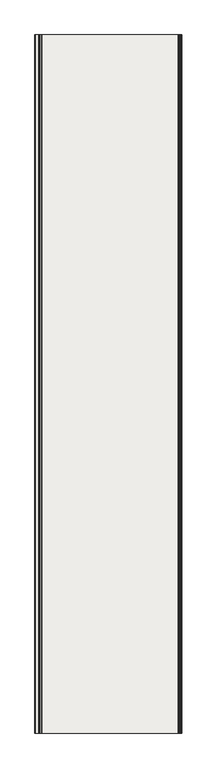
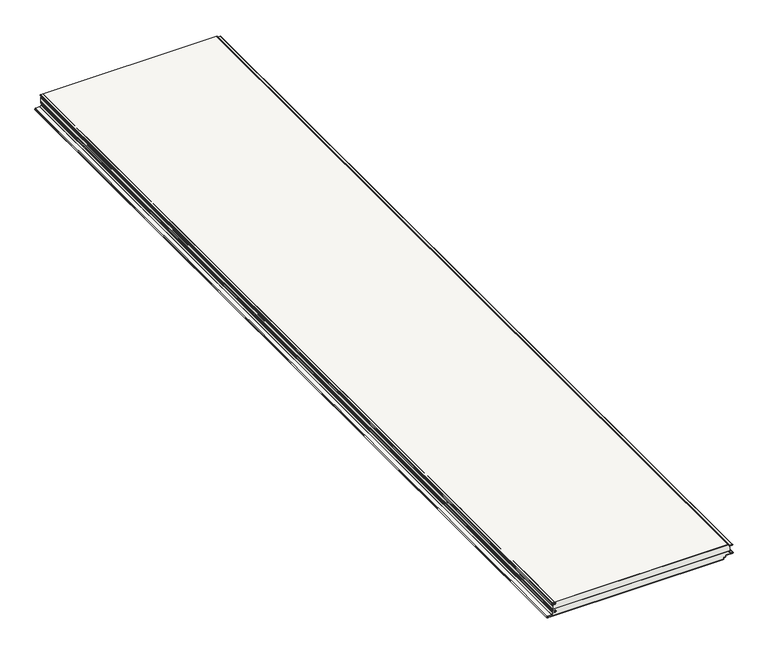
"""IFC4 building model written with IfcOpenShell, lengths in millimetres: covering geometry, Wall sandwich panel SPW-H CORE WOOL (single sheet) : -."""

from ifc_helpers import new_model, si_unit, point, frame, frame_2d, origin, place, context, project, spatial, polyline, circle_curve, trimmed, segment, composite_curve, outline, extrude, source, transform, mapped, element, save
from ifc_brep_helpers import plane_surface, cylinder_surface, revolved_surface, advanced_brep


def covering_002f4c35(model_context):
    return source(origin(), model_context, "Body", "SolidModel", [
        extrude(outline(composite_curve([segment(polyline([(-79.0, -1035.0), (-80.0, -1035.0), (-80.0, -73.4477183)]), True, "CONTINUOUS"), segment(trimmed(circle_curve(frame_2d((-75.0, -73.4477183)), 5.0), [point((-80.0, -73.4477183))], [point((-75.0, -68.4477183))], False, "CARTESIAN"), True, "CONTINUOUS"), segment(polyline([(-75.0, -68.4477183), (-72.008232, -68.4477183)]), True, "CONTINUOUS"), segment(trimmed(circle_curve(frame_2d((-72.008232, -66.4315256)), 2.0161927), [point((-72.008232, -68.4477183))], [point((-69.9920393, -66.4315256))], True, "CARTESIAN"), True, "CONTINUOUS"), segment(polyline([(-69.9920393, -66.4315256), (-69.9920393, -60.9141788)]), True, "CONTINUOUS"), segment(trimmed(circle_curve(frame_2d((-67.4959919, -60.9141788)), 2.4960474), [point((-69.9920393, -60.9141788))], [point((-67.9326372, -58.4566204))], False, "CARTESIAN"), True, "CONTINUOUS"), segment(polyline([(-67.9326372, -58.4566204), (-61.6533464, -57.3460478)]), True, "CONTINUOUS"), segment(trimmed(circle_curve(frame_2d((-62.0004127, -55.3763918)), 2.0), [point((-61.6533464, -57.3460478))], [point((-60.0004127, -55.3763918))], True, "CARTESIAN"), True, "CONTINUOUS"), segment(polyline([(-60.0004127, -55.3763918), (-60.0004127, -18.8763918)]), True, "CONTINUOUS"), segment(trimmed(circle_curve(frame_2d((-57.0004127, -18.8763918)), 3.0), [point((-60.0004127, -18.8763918))], [point((-54.0045241, -18.7193839))], False, "CARTESIAN"), True, "CONTINUOUS"), segment(polyline([(-54.0045241, -18.7193839), (-53.2754556, -32.6308399)]), True, "CONTINUOUS"), segment(trimmed(circle_curve(frame_2d((-50.7788817, -32.5)), 2.5), [point((-53.2754556, -32.6308399))], [point((-50.7788817, -35.0))], True, "CARTESIAN"), True, "CONTINUOUS"), segment(polyline([(-50.7788817, -35.0), (-41.4988817, -35.0), (-41.4988817, -36.0), (-50.7788817, -36.0)]), True, "CONTINUOUS"), segment(trimmed(circle_curve(frame_2d((-50.7788817, -32.5)), 3.5), [point((-50.7788817, -36.0))], [point((-54.2740851, -32.6831758))], False, "CARTESIAN"), True, "CONTINUOUS"), segment(polyline([(-54.2740851, -32.6831758), (-55.0031536, -18.7717199)]), True, "CONTINUOUS"), segment(trimmed(circle_curve(frame_2d((-57.0004127, -18.8763918)), 2.0), [point((-55.0031536, -18.7717199))], [point((-59.0004127, -18.8763918))], True, "CARTESIAN"), True, "CONTINUOUS"), segment(polyline([(-59.0004127, -18.8763918), (-59.0004127, -55.3763918)]), True, "CONTINUOUS"), segment(trimmed(circle_curve(frame_2d((-62.0004127, -55.3763918)), 3.0), [point((-59.0004127, -55.3763918))], [point((-61.4794682, -58.330815))], False, "CARTESIAN"), True, "CONTINUOUS"), segment(polyline([(-61.4794682, -58.330815), (-67.7580406, -59.4412605)]), True, "CONTINUOUS"), segment(trimmed(circle_curve(frame_2d((-67.4959919, -60.9141788)), 1.4960474), [point((-67.7580406, -59.4412605))], [point((-68.9920393, -60.9141788))], True, "CARTESIAN"), True, "CONTINUOUS"), segment(polyline([(-68.9920393, -60.9141788), (-68.9920393, -66.4315256)]), True, "CONTINUOUS"), segment(trimmed(circle_curve(frame_2d((-72.008232, -66.4315256)), 3.0161927), [point((-68.9920393, -66.4315256))], [point((-72.008232, -69.4477183))], False, "CARTESIAN"), True, "CONTINUOUS"), segment(polyline([(-72.008232, -69.4477183), (-75.0, -69.4477183)]), True, "CONTINUOUS"), segment(trimmed(circle_curve(frame_2d((-75.0, -73.4477183)), 4.0), [point((-75.0, -69.4477183))], [point((-79.0, -73.4477183))], True, "CARTESIAN"), True, "CONTINUOUS"), segment(polyline([(-79.0, -73.4477183), (-79.0, -1035.0)]), True, "CONTINUOUS")], self_intersect=False)), frame((0.0, -5000.0, 0.0), z_axis=(0.0, 1.0, 0.0), x_axis=(0.0, 0.0, 1.0)), (0.0, 0.0, 1.0), 5000.0),
        extrude(outline(composite_curve([segment(polyline([(-15.1088808, -1033.0523342), (-14.5423642, -1022.2421915)]), True, "CONTINUOUS"), segment(trimmed(circle_curve(frame_2d((-9.549216, -1022.5038626)), 5.0), [point((-14.5423642, -1022.2421915))], [point((-4.5522622, -1022.3293564))], False, "CARTESIAN"), True, "CONTINUOUS"), segment(polyline([(-4.5522622, -1022.3293564), (-4.0495702, -1036.7238513)]), True, "CONTINUOUS"), segment(trimmed(circle_curve(frame_2d((-2.5266447, -1036.6173526)), 1.5266447), [point((-4.0495702, -1036.7238513))], [point((-1.0, -1036.6173526))], True, "CARTESIAN"), True, "CONTINUOUS"), segment(polyline([(-1.0, -1036.6173526), (-1.0, -1035.0), (0.0, -1035.0), (0.0, -1036.6173526)]), True, "CONTINUOUS"), segment(trimmed(circle_curve(frame_2d((-2.5266447, -1036.6173526)), 2.5266447), [point((0.0, -1036.6173526))], [point((-5.0484281, -1036.7740115))], False, "CARTESIAN"), True, "CONTINUOUS"), segment(polyline([(-5.0484281, -1036.7740115), (-5.551653, -1022.3642576)]), True, "CONTINUOUS"), segment(trimmed(circle_curve(frame_2d((-9.549216, -1022.5038626)), 4.0), [point((-5.551653, -1022.3642576))], [point((-13.5437346, -1022.2945257))], True, "CARTESIAN"), True, "CONTINUOUS"), segment(polyline([(-13.5437346, -1022.2945257), (-14.1102512, -1033.1046684)]), True, "CONTINUOUS"), segment(trimmed(circle_curve(frame_2d((-16.1075105, -1033.0)), 2.0), [point((-14.1102512, -1033.1046684))], [point((-16.1075105, -1035.0))], False, "CARTESIAN"), True, "CONTINUOUS"), segment(polyline([(-16.1075105, -1035.0), (-18.1075105, -1035.0), (-18.1075105, -1034.0), (-16.1075105, -1034.0)]), True, "CONTINUOUS"), segment(trimmed(circle_curve(frame_2d((-16.1075105, -1033.0)), 1.0), [point((-16.1075105, -1034.0))], [point((-15.1088808, -1033.0523342))], True, "CARTESIAN"), True, "CONTINUOUS")], self_intersect=False)), frame((0.0, -5000.0, 0.0), z_axis=(0.0, 1.0, 0.0), x_axis=(0.0, 0.0, 1.0)), (0.0, 0.0, 1.0), 5000.0),
        advanced_brep(
        [(-1030.5824878, -5000.0, -62.0150874), (-1019.3324879, -5000.0, -61.9992045), (-1019.0709825, -5000.0, -52.0060522), (-1033.2742211, -5000.0, -51.2619406), (-1034.0, -5000.0, -50.4971426), (-1034.0, -5000.0, -41.4971426), (-1035.0, -5000.0, -41.4971426), (-1035.0, -5000.0, -50.4971426), (-1033.3265396, -5000.0, -52.260571), (-1019.123301, -5000.0, -53.0046827), (-1019.3331636, -5000.0, -60.9992044), (-1030.6396582, -5000.0, -61.0151671), (-1032.7899391, -5000.0, -62.27871), (-1038.1496634, -5000.0, -69.933474), (-1040.1975249, -5000.0, -70.9995686), (-1063.4143745, -5000.0, -70.9999738), (-1063.414296, -5000.0, -80.0), (-1035.0, -5000.0, -80.0), (-1035.0, -5000.0, -79.0), (-1063.414296, -5000.0, -79.0), (-1063.4143571, -5000.0, -72.0), (-1040.1975075, -5000.0, -71.9995686), (-1037.3305014, -5000.0, -70.5070361), (-1031.9707771, -5000.0, -62.8522722), (-1030.5824878, 0.0, -62.0150874), (-1031.9707771, 0.0, -62.8522722), (-1037.3305014, 0.0, -70.5070361), (-1040.1975075, 0.0, -71.9995686), (-1063.4143571, 0.0, -71.9999738), (-1063.414296, 0.0, -79.0), (-1035.0, 0.0, -79.0), (-1035.0, 0.0, -80.0), (-1063.414296, 0.0, -80.0), (-1063.4143745, 0.0, -71.0), (-1040.1975249, 0.0, -70.9995686), (-1038.1496634, 0.0, -69.933474), (-1032.7899391, 0.0, -62.27871), (-1030.6396582, 0.0, -61.0151671), (-1019.3331636, 0.0, -60.9992044), (-1019.123301, 0.0, -53.0046827), (-1033.3265396, 0.0, -52.260571), (-1035.0, 0.0, -50.4971426), (-1035.0, 0.0, -41.4971426), (-1034.0, 0.0, -41.4971426), (-1034.0, 0.0, -50.4971426), (-1033.2742211, 0.0, -51.2619406), (-1019.0709825, 0.0, -52.0060522), (-1019.3324879, 0.0, -61.9992045)],
        [
            (0, 1),
            (1, 2, circle_curve(frame((-1019.3325751, -5000.0, -56.9992045), z_axis=(0.0, -1.0, 0.0), x_axis=(1.0, 0.0, 0.0)), 5.0)),
            (2, 3),
            (3, 4, circle_curve(frame((-1033.2341531, -5000.0, -50.4971426), z_axis=(0.0, 1.0, 0.0), x_axis=(1.0, 0.0, 0.0)), 0.7658469)),
            (4, 5),
            (5, 6),
            (6, 7),
            (7, 8, circle_curve(frame((-1033.2341531, -5000.0, -50.4971426), z_axis=(0.0, -1.0, 0.0), x_axis=(1.0, 0.0, 0.0)), 1.7658469)),
            (8, 9),
            (9, 10, circle_curve(frame((-1019.3325751, -5000.0, -56.9992045), z_axis=(0.0, 1.0, 0.0), x_axis=(1.0, 0.0, 0.0)), 4.0)),
            (10, 11),
            (11, 12, circle_curve(frame((-1030.3324529, -5000.0, -63.9993964), z_axis=(0.0, -1.0, 0.0), x_axis=(1.0, 0.0, 0.0)), 3.0)),
            (12, 13),
            (13, 14, circle_curve(frame((-1040.1975686, -5000.0, -68.4995686), z_axis=(0.0, 1.0, 0.0), x_axis=(1.0, 0.0, 0.0)), 2.5)),
            (14, 15),
            (15, 16, circle_curve(frame((-1063.414296, -5000.0, -75.5), z_axis=(0.0, -1.0, 0.0), x_axis=(1.0, 0.0, 0.0)), 4.5)),
            (16, 17),
            (17, 18),
            (18, 19),
            (19, 20, circle_curve(frame((-1063.414296, -5000.0, -75.5), z_axis=(0.0, 1.0, 0.0), x_axis=(1.0, 0.0, 0.0)), 3.5)),
            (20, 21),
            (21, 22, circle_curve(frame((-1040.1975686, -5000.0, -68.4995686), z_axis=(0.0, -1.0, 0.0), x_axis=(1.0, 0.0, 0.0)), 3.5)),
            (22, 23),
            (23, 0, circle_curve(frame((-1030.3324529, -5000.0, -63.9993964), z_axis=(0.0, 1.0, 0.0), x_axis=(1.0, 0.0, 0.0)), 2.0)),
            (24, 25, circle_curve(frame((-1030.3324529, 0.0, -63.9993964), z_axis=(0.0, -1.0, 0.0), x_axis=(1.0, 0.0, 0.0)), 2.0)),
            (25, 26),
            (26, 27, circle_curve(frame((-1040.1975686, 0.0, -68.4995686), z_axis=(0.0, 1.0, 0.0), x_axis=(1.0, 0.0, 0.0)), 3.5)),
            (27, 28),
            (28, 29, circle_curve(frame((-1063.414296, 0.0, -75.5), z_axis=(0.0, -1.0, 0.0), x_axis=(1.0, 0.0, 0.0)), 3.5)),
            (29, 30),
            (30, 31),
            (31, 32),
            (32, 33, circle_curve(frame((-1063.414296, 0.0, -75.5), z_axis=(0.0, 1.0, 0.0), x_axis=(1.0, 0.0, 0.0)), 4.5)),
            (33, 34),
            (34, 35, circle_curve(frame((-1040.1975686, 0.0, -68.4995686), z_axis=(0.0, -1.0, 0.0), x_axis=(1.0, 0.0, 0.0)), 2.5)),
            (35, 36),
            (36, 37, circle_curve(frame((-1030.3324529, 0.0, -63.9993964), z_axis=(0.0, 1.0, 0.0), x_axis=(1.0, 0.0, 0.0)), 3.0)),
            (37, 38),
            (38, 39, circle_curve(frame((-1019.3325751, 0.0, -56.9992045), z_axis=(0.0, -1.0, 0.0), x_axis=(1.0, 0.0, 0.0)), 4.0)),
            (39, 40),
            (40, 41, circle_curve(frame((-1033.2341531, 0.0, -50.4971426), z_axis=(0.0, 1.0, 0.0), x_axis=(1.0, 0.0, 0.0)), 1.7658469)),
            (41, 42),
            (42, 43),
            (43, 44),
            (44, 45, circle_curve(frame((-1033.2341531, 0.0, -50.4971426), z_axis=(0.0, -1.0, 0.0), x_axis=(1.0, 0.0, 0.0)), 0.7658469)),
            (45, 46),
            (46, 47, circle_curve(frame((-1019.3325751, 0.0, -56.9992045), z_axis=(0.0, 1.0, 0.0), x_axis=(1.0, 0.0, 0.0)), 5.0)),
            (47, 24),
            (0, 24),
            (47, 1),
            (46, 2),
            (45, 3),
            (44, 4),
            (43, 5),
            (42, 6),
            (41, 7),
            (40, 8),
            (39, 9),
            (38, 10),
            (37, 11),
            (36, 12),
            (35, 13),
            (34, 14),
            (33, 15),
            (32, 16),
            (31, 17),
            (30, 18),
            (29, 19),
            (28, 20),
            (27, 21),
            (26, 22),
            (25, 23),
        ],
        [
            plane_surface(frame((-1035.0, -5000.0, -80.0), z_axis=(0.0, -1.0, 0.0), x_axis=(0.0, 0.0, -1.0))),
            plane_surface(frame((-1035.0, 0.0, -80.0), z_axis=(0.0, 1.0, 0.0), x_axis=(0.0, 0.0, -1.0))),
            plane_surface(frame((-1030.5824878, -5000.0, -62.0150874), z_axis=(0.001411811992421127, 0.0, -0.9999990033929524), x_axis=(0.0, 1.0, 0.0))),
            cylinder_surface(frame((-1019.3325751, -5000.0, -56.9992045), z_axis=(0.0, -1.0, 0.0), x_axis=(1.0, 0.0, 0.0)), 5.0),
            plane_surface(frame((-1019.0709825, -5000.0, -52.0060522), z_axis=(0.05231852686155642, 0.0, 0.998630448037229), x_axis=(0.0, 1.0, 0.0))),
            revolved_surface(polyline([(-1032.4683062, 0.0, -50.4971426), (-1032.4683062, -5000.0, -50.4971426)]), (-1033.2341531, -5000.0, -50.4971426), (0.0, 1.0, 0.0)),
            plane_surface(frame((-1034.0, -5000.0, -50.4971426), z_axis=(1.0, 0.0, 0.0), x_axis=(0.0, 1.0, 0.0))),
            plane_surface(frame((-1034.0, -5000.0, -41.4971426), z_axis=(0.0, 0.0, 1.0), x_axis=(0.0, 1.0, 0.0))),
            plane_surface(frame((-1035.0, -5000.0, -41.4971426), z_axis=(-1.0, 0.0, 0.0), x_axis=(0.0, 1.0, 0.0))),
            cylinder_surface(frame((-1033.2341531, -5000.0, -50.4971426), z_axis=(0.0, -1.0, 0.0), x_axis=(1.0, 0.0, 0.0)), 1.7658469),
            plane_surface(frame((-1033.3265396, -5000.0, -52.260571), z_axis=(-0.05231852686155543, 0.0, -0.998630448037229), x_axis=(0.0, 1.0, 0.0))),
            revolved_surface(polyline([(-1015.3325751, 0.0, -56.9992045), (-1015.3325751, -5000.0, -56.9992045)]), (-1019.3325751, -5000.0, -56.9992045), (0.0, 1.0, 0.0)),
            plane_surface(frame((-1019.3331636, -5000.0, -60.9992044), z_axis=(-0.0014118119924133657, 0.0, 0.9999990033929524), x_axis=(0.0, 1.0, 0.0))),
            cylinder_surface(frame((-1030.3324529, -5000.0, -63.9993964), z_axis=(0.0, -1.0, 0.0), x_axis=(1.0, 0.0, 0.0)), 3.0),
            plane_surface(frame((-1032.7899391, -5000.0, -62.27871), z_axis=(-0.8191620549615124, 0.0, 0.5735621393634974), x_axis=(0.0, 1.0, 0.0))),
            revolved_surface(polyline([(-1037.6975686, 0.0, -68.4995686), (-1037.6975686, -5000.0, -68.4995686)]), (-1040.1975686, -5000.0, -68.4995686), (0.0, 1.0, 0.0)),
            plane_surface(frame((-1040.1975249, -5000.0, -70.9995686), z_axis=(-1.745329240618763e-05, 0.0, 0.9999999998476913), x_axis=(0.0, 1.0, 0.0))),
            cylinder_surface(frame((-1063.414296, -5000.0, -75.5), z_axis=(0.0, -1.0, 0.0), x_axis=(1.0, 0.0, 0.0)), 4.5),
            plane_surface(frame((-1063.414296, -5000.0, -80.0), z_axis=(0.0, 0.0, -1.0), x_axis=(0.0, 1.0, 0.0))),
            plane_surface(frame((-1035.0, -5000.0, -80.0), z_axis=(1.0, 0.0, 0.0), x_axis=(0.0, 1.0, 0.0))),
            plane_surface(frame((-1035.0, -5000.0, -79.0), z_axis=(0.0, 0.0, 1.0), x_axis=(0.0, 1.0, 0.0))),
            revolved_surface(polyline([(-1059.914296, 0.0, -75.5), (-1059.914296, -5000.0, -75.5)]), (-1063.414296, -5000.0, -75.5), (0.0, 1.0, 0.0)),
            plane_surface(frame((-1063.4143571, -5000.0, -71.9999738), z_axis=(1.745329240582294e-05, 0.0, -0.9999999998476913), x_axis=(0.0, 1.0, 0.0))),
            cylinder_surface(frame((-1040.1975686, -5000.0, -68.4995686), z_axis=(0.0, -1.0, 0.0), x_axis=(1.0, 0.0, 0.0)), 3.5),
            plane_surface(frame((-1037.3305014, -5000.0, -70.5070361), z_axis=(0.8191620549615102, 0.0, -0.5735621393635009), x_axis=(0.0, 1.0, 0.0))),
            revolved_surface(polyline([(-1028.3324529, 0.0, -63.9993964), (-1028.3324529, -5000.0, -63.9993964)]), (-1030.3324529, -5000.0, -63.9993964), (0.0, 1.0, 0.0)),
        ],
        [
            (0, [[1, 2, 3, 4, 5, 6, 7, 8, 9, 10, 11, 12, 13, 14, 15, 16, 17, 18, 19, 20, 21, 22, 23, 24]]),
            (1, [[25, 26, 27, 28, 29, 30, 31, 32, 33, 34, 35, 36, 37, 38, 39, 40, 41, 42, 43, 44, 45, 46, 47, 48]]),
            (2, [[-1, 49, -48, 50]]),
            (3, [[-2, -50, -47, 51]]),
            (4, [[-3, -51, -46, 52]]),
            (5, [[-4, -52, -45, 53]]),
            (6, [[-5, -53, -44, 54]]),
            (7, [[-6, -54, -43, 55]]),
            (8, [[-7, -55, -42, 56]]),
            (9, [[-8, -56, -41, 57]]),
            (10, [[-9, -57, -40, 58]]),
            (11, [[-10, -58, -39, 59]]),
            (12, [[-11, -59, -38, 60]]),
            (13, [[-12, -60, -37, 61]]),
            (14, [[-13, -61, -36, 62]]),
            (15, [[-14, -62, -35, 63]]),
            (16, [[-15, -63, -34, 64]]),
            (17, [[-16, -64, -33, 65]]),
            (18, [[-17, -65, -32, 66]]),
            (19, [[-18, -66, -31, 67]]),
            (20, [[-19, -67, -30, 68]]),
            (21, [[-20, -68, -29, 69]]),
            (22, [[-21, -69, -28, 70]]),
            (23, [[-22, -70, -27, 71]]),
            (24, [[-23, -71, -26, 72]]),
            (25, [[-24, -72, -25, -49]]),
        ],
    ),
        extrude(outline(composite_curve([segment(polyline([(-1.0, -1035.0), (-1.0, -42.1186621)]), True, "CONTINUOUS"), segment(trimmed(circle_curve(frame_2d((-2.5, -42.1186621)), 1.5), [point((-1.0, -42.1186621))], [point((-2.5, -40.6186621))], True, "CARTESIAN"), True, "CONTINUOUS"), segment(polyline([(-2.5, -40.6186621), (-4.3, -40.6186621)]), True, "CONTINUOUS"), segment(trimmed(circle_curve(frame_2d((-4.3, -38.1186621)), 2.5), [point((-4.3, -40.6186621))], [point((-6.7984771, -38.2059108))], False, "CARTESIAN"), True, "CONTINUOUS"), segment(polyline([(-6.7984771, -38.2059108), (-7.363951, -22.012857)]), True, "CONTINUOUS"), segment(trimmed(circle_curve(frame_2d((-9.3627326, -22.082656)), 2.0), [point((-7.363951, -22.012857))], [point((-11.3599917, -21.9779841))], True, "CARTESIAN"), True, "CONTINUOUS"), segment(polyline([(-11.3599917, -21.9779841), (-11.921027, -32.6831758)]), True, "CONTINUOUS"), segment(trimmed(circle_curve(frame_2d((-15.4162304, -32.5)), 3.5), [point((-11.921027, -32.6831758))], [point((-15.4162304, -36.0))], False, "CARTESIAN"), True, "CONTINUOUS"), segment(polyline([(-15.4162304, -36.0), (-18.1062304, -36.0), (-18.1062304, -35.0), (-15.4162304, -35.0)]), True, "CONTINUOUS"), segment(trimmed(circle_curve(frame_2d((-15.4162304, -32.5)), 2.5), [point((-15.4162304, -35.0))], [point((-12.9196566, -32.6308399))], True, "CARTESIAN"), True, "CONTINUOUS"), segment(polyline([(-12.9196566, -32.6308399), (-12.3586212, -21.9256482)]), True, "CONTINUOUS"), segment(trimmed(circle_curve(frame_2d((-9.3627326, -22.082656)), 3.0), [point((-12.3586212, -21.9256482))], [point((-6.3645601, -21.9779575))], False, "CARTESIAN"), True, "CONTINUOUS"), segment(polyline([(-6.3645601, -21.9779575), (-5.7990862, -38.1710114)]), True, "CONTINUOUS"), segment(trimmed(circle_curve(frame_2d((-4.3, -38.1186621)), 1.5), [point((-5.7990862, -38.1710114))], [point((-4.3, -39.6186621))], True, "CARTESIAN"), True, "CONTINUOUS"), segment(polyline([(-4.3, -39.6186621), (-2.5, -39.6186621)]), True, "CONTINUOUS"), segment(trimmed(circle_curve(frame_2d((-2.5, -42.1186621)), 2.5), [point((-2.5, -39.6186621))], [point((0.0, -42.1186621))], False, "CARTESIAN"), True, "CONTINUOUS"), segment(polyline([(0.0, -42.1186621), (0.0, -1035.0), (-1.0, -1035.0)]), True, "CONTINUOUS")], self_intersect=False)), frame((0.0, -5000.0, 0.0), z_axis=(0.0, 1.0, 0.0), x_axis=(0.0, 0.0, 1.0)), (0.0, 0.0, 1.0), 5000.0),
        advanced_brep(
        [(-1063.414296, -5000.0, -79.0), (-1035.0, -5000.0, -79.0), (-73.4477183, -5000.0, -79.0), (-69.4477183, -5000.0, -75.0), (-69.4477183, -5000.0, -72.0078193), (-66.4315256, -5000.0, -68.9916266), (-60.9141788, -5000.0, -68.9916266), (-59.4412605, -5000.0, -67.7576279), (-58.330815, -5000.0, -61.4790555), (-55.3763918, -5000.0, -59.0), (-18.8763918, -5000.0, -59.0), (-18.7717199, -5000.0, -55.0027409), (-32.6831758, -5000.0, -54.2736724), (-36.0, -5000.0, -50.778469), (-36.0, -5000.0, -40.0), (-1034.0, -5000.0, -40.0), (-1034.0, -5000.0, -50.4973345), (-1033.2742211, -5000.0, -51.2621326), (-1019.0709825, -5000.0, -52.0062442), (-1019.3324879, -5000.0, -61.9993964), (-1030.3324878, -5000.0, -61.9993964), (-1031.9707771, -5000.0, -62.8522722), (-1037.3305014, -5000.0, -70.5070361), (-1040.1975075, -5000.0, -71.9995686), (-1063.4143571, -5000.0, -71.9995686), (-1035.0, 0.0, -79.0), (-1063.414296, 0.0, -79.0), (-1063.4143571, 0.0, -72.0), (-1040.1975075, 0.0, -71.9995686), (-1037.3305014, 0.0, -70.5070361), (-1031.9707771, 0.0, -62.8522722), (-1030.3324878, 0.0, -61.9993964), (-1019.3324879, 0.0, -61.9993964), (-1019.0709825, 0.0, -52.0062442), (-1033.2742211, 0.0, -51.2621326), (-1034.0, 0.0, -50.4973345), (-1034.0, 0.0, -40.0), (-36.0, 0.0, -40.0), (-36.0, 0.0, -50.778469), (-32.6831758, 0.0, -54.2736724), (-18.7717199, 0.0, -55.0027409), (-18.8763918, 0.0, -59.0), (-55.3763918, 0.0, -59.0), (-58.330815, 0.0, -61.4790555), (-59.4412605, 0.0, -67.7576279), (-60.9141788, 0.0, -68.9916266), (-66.4315256, 0.0, -68.9916266), (-69.4477183, 0.0, -72.0078193), (-69.4477183, 0.0, -75.0), (-73.4477183, 0.0, -79.0)],
        [
            (0, 1),
            (1, 2),
            (2, 3, circle_curve(frame((-73.4477183, -5000.0, -75.0), z_axis=(0.0, -1.0, 0.0), x_axis=(-1.0, 0.0, 0.0)), 4.0)),
            (3, 4),
            (4, 5, circle_curve(frame((-66.4315256, -5000.0, -72.0078193), z_axis=(0.0, 1.0, 0.0), x_axis=(-1.0, 0.0, 0.0)), 3.0161927)),
            (5, 6),
            (6, 7, circle_curve(frame((-60.9141788, -5000.0, -67.4955792), z_axis=(0.0, -1.0, 0.0), x_axis=(-1.0, 0.0, 0.0)), 1.4960474)),
            (7, 8),
            (8, 9, circle_curve(frame((-55.3763918, -5000.0, -62.0), z_axis=(0.0, 1.0, 0.0), x_axis=(-1.0, 0.0, 0.0)), 3.0)),
            (9, 10),
            (10, 11, circle_curve(frame((-18.8763918, -5000.0, -57.0), z_axis=(0.0, -1.0, 0.0), x_axis=(-1.0, 0.0, 0.0)), 2.0)),
            (11, 12),
            (12, 13, circle_curve(frame((-32.5, -5000.0, -50.778469), z_axis=(0.0, 1.0, 0.0), x_axis=(-1.0, 0.0, 0.0)), 3.5)),
            (13, 14),
            (14, 15),
            (15, 16),
            (16, 17, circle_curve(frame((-1033.2341531, -5000.0, -50.4973345), z_axis=(0.0, -1.0, 0.0), x_axis=(-1.0, 0.0, 0.0)), 0.7658469)),
            (17, 18),
            (18, 19, circle_curve(frame((-1019.3325751, -5000.0, -56.9993964), z_axis=(0.0, 1.0, 0.0), x_axis=(-1.0, 0.0, 0.0)), 5.0)),
            (19, 20),
            (20, 21, circle_curve(frame((-1030.3324529, -5000.0, -63.9993964), z_axis=(0.0, -1.0, 0.0), x_axis=(-1.0, 0.0, 0.0)), 2.0)),
            (21, 22),
            (22, 23, circle_curve(frame((-1040.1975686, -5000.0, -68.4995686), z_axis=(0.0, 1.0, 0.0), x_axis=(-1.0, 0.0, 0.0)), 3.5)),
            (23, 24),
            (24, 0, circle_curve(frame((-1063.414296, -5000.0, -75.5), z_axis=(0.0, -1.0, 0.0), x_axis=(-1.0, 0.0, 0.0)), 3.5)),
            (25, 26),
            (26, 27, circle_curve(frame((-1063.414296, 0.0, -75.5), z_axis=(0.0, 1.0, 0.0), x_axis=(-1.0, 0.0, 0.0)), 3.5)),
            (27, 28),
            (28, 29, circle_curve(frame((-1040.1975686, 0.0, -68.4995686), z_axis=(0.0, -1.0, 0.0), x_axis=(-1.0, 0.0, 0.0)), 3.5)),
            (29, 30),
            (30, 31, circle_curve(frame((-1030.3324529, 0.0, -63.9993964), z_axis=(0.0, 1.0, 0.0), x_axis=(-1.0, 0.0, 0.0)), 2.0)),
            (31, 32),
            (32, 33, circle_curve(frame((-1019.3325751, 0.0, -56.9993964), z_axis=(0.0, -1.0, 0.0), x_axis=(-1.0, 0.0, 0.0)), 5.0)),
            (33, 34),
            (34, 35, circle_curve(frame((-1033.2341531, 0.0, -50.4973345), z_axis=(0.0, 1.0, 0.0), x_axis=(-1.0, 0.0, 0.0)), 0.7658469)),
            (35, 36),
            (36, 37),
            (37, 38),
            (38, 39, circle_curve(frame((-32.5, 0.0, -50.778469), z_axis=(0.0, -1.0, 0.0), x_axis=(-1.0, 0.0, 0.0)), 3.5)),
            (39, 40),
            (40, 41, circle_curve(frame((-18.8763918, 0.0, -57.0), z_axis=(0.0, 1.0, 0.0), x_axis=(-1.0, 0.0, 0.0)), 2.0)),
            (41, 42),
            (42, 43, circle_curve(frame((-55.3763918, 0.0, -62.0), z_axis=(0.0, -1.0, 0.0), x_axis=(-1.0, 0.0, 0.0)), 3.0)),
            (43, 44),
            (44, 45, circle_curve(frame((-60.9141788, 0.0, -67.4955792), z_axis=(0.0, 1.0, 0.0), x_axis=(-1.0, 0.0, 0.0)), 1.4960474)),
            (45, 46),
            (46, 47, circle_curve(frame((-66.4315256, 0.0, -72.0078193), z_axis=(0.0, -1.0, 0.0), x_axis=(-1.0, 0.0, 0.0)), 3.0161927)),
            (47, 48),
            (48, 49, circle_curve(frame((-73.4477183, 0.0, -75.0), z_axis=(0.0, 1.0, 0.0), x_axis=(-1.0, 0.0, 0.0)), 4.0)),
            (49, 25),
            (36, 15),
            (14, 37),
            (0, 26),
            (49, 2),
            (13, 38),
            (12, 39),
            (11, 40),
            (10, 41),
            (9, 42),
            (8, 43),
            (7, 44),
            (6, 45),
            (5, 46),
            (4, 47),
            (3, 48),
            (24, 27),
            (23, 28),
            (22, 29),
            (21, 30),
            (20, 31),
            (19, 32),
            (18, 33),
            (17, 34),
            (16, 35),
        ],
        [
            plane_surface(frame((-1095.0, -5000.0, -40.0), z_axis=(0.0, -1.0, 0.0), x_axis=(-1.0, 0.0, 0.0))),
            plane_surface(frame((-1095.0, 0.0, -40.0), z_axis=(0.0, 1.0, 0.0), x_axis=(1.0, 0.0, 0.0))),
            plane_surface(frame((25.0, -5000.0, -40.0), z_axis=(0.0, 0.0, 1.0), x_axis=(0.0, 1.0, 0.0))),
            plane_surface(frame((-1095.0, -5000.0, -79.0), z_axis=(0.0, 0.0, -1.0), x_axis=(0.0, 1.0, 0.0))),
            plane_surface(frame((-36.0, -5000.0, -15.4162304), z_axis=(1.0, 0.0, 0.0), x_axis=(0.0, 1.0, 0.0))),
            revolved_surface(polyline([(-36.0, -5000.0, -50.778469), (-36.0, 0.0, -50.778469)]), (-32.5, -5000.0, -50.778469), (0.0, -1.0, 0.0)),
            plane_surface(frame((-32.6831758, -5000.0, -54.2736724), z_axis=(0.052335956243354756, 0.0, 0.9986295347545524), x_axis=(0.0, 1.0, 0.0))),
            cylinder_surface(frame((-18.8763918, -5000.0, -57.0), z_axis=(0.0, 1.0, 0.0), x_axis=(-1.0, 0.0, 0.0)), 2.0),
            plane_surface(frame((-18.8763918, -5000.0, -59.0), z_axis=(0.0, 0.0, -1.0), x_axis=(0.0, 1.0, 0.0))),
            revolved_surface(polyline([(-58.3763918, -5000.0, -62.0), (-58.3763918, 0.0, -62.0)]), (-55.3763918, -5000.0, -62.0), (0.0, -1.0, 0.0)),
            plane_surface(frame((-58.330815, -5000.0, -61.4790555), z_axis=(0.9847174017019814, 0.0, -0.1741598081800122), x_axis=(0.0, 1.0, 0.0))),
            cylinder_surface(frame((-60.9141788, -5000.0, -67.4955792), z_axis=(0.0, 1.0, 0.0), x_axis=(-1.0, 0.0, 0.0)), 1.4960474),
            plane_surface(frame((-60.9141788, -5000.0, -68.9916266), z_axis=(0.0, 0.0, -1.0), x_axis=(0.0, 1.0, 0.0))),
            revolved_surface(polyline([(-69.4477183, -5000.0, -72.0078193), (-69.4477183, 0.0, -72.0078193)]), (-66.4315256, -5000.0, -72.0078193), (0.0, -1.0, 0.0)),
            plane_surface(frame((-69.4477183, -5000.0, -72.0078193), z_axis=(1.0, 0.0, 0.0), x_axis=(0.0, 1.0, 0.0))),
            cylinder_surface(frame((-73.4477183, -5000.0, -75.0), z_axis=(0.0, 1.0, 0.0), x_axis=(-1.0, 0.0, 0.0)), 4.0),
            cylinder_surface(frame((-1063.414296, -5000.0, -75.5), z_axis=(0.0, 1.0, 0.0), x_axis=(-1.0, 0.0, 0.0)), 3.5),
            plane_surface(frame((-1063.4143571, -5000.0, -71.9995686), z_axis=(0.0, 0.0, 1.0), x_axis=(0.0, 1.0, 0.0))),
            revolved_surface(polyline([(-1043.6975686, -5000.0, -68.4995686), (-1043.6975686, 0.0, -68.4995686)]), (-1040.1975686, -5000.0, -68.4995686), (0.0, -1.0, 0.0)),
            plane_surface(frame((-1037.3305014, -5000.0, -70.5070361), z_axis=(-0.8191620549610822, 0.0, 0.573562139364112), x_axis=(0.0, 1.0, 0.0))),
            cylinder_surface(frame((-1030.3324529, -5000.0, -63.9993964), z_axis=(0.0, 1.0, 0.0), x_axis=(-1.0, 0.0, 0.0)), 2.0),
            plane_surface(frame((-1030.3324878, -5000.0, -61.9993964), z_axis=(0.0, 0.0, 1.0), x_axis=(0.0, 1.0, 0.0))),
            revolved_surface(polyline([(-1024.3325751, -5000.0, -56.9993964), (-1024.3325751, 0.0, -56.9993964)]), (-1019.3325751, -5000.0, -56.9993964), (0.0, -1.0, 0.0)),
            plane_surface(frame((-1019.0709825, -5000.0, -52.0062442), z_axis=(-0.05231852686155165, 0.0, -0.9986304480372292), x_axis=(0.0, 1.0, 0.0))),
            cylinder_surface(frame((-1033.2341531, -5000.0, -50.4973345), z_axis=(0.0, 1.0, 0.0), x_axis=(-1.0, 0.0, 0.0)), 0.7658469),
            plane_surface(frame((-1034.0, -5000.0, -50.4973345), z_axis=(-1.0, 0.0, 0.0), x_axis=(0.0, 1.0, 0.0))),
        ],
        [
            (0, [[1, 2, 3, 4, 5, 6, 7, 8, 9, 10, 11, 12, 13, 14, 15, 16, 17, 18, 19, 20, 21, 22, 23, 24, 25]]),
            (1, [[26, 27, 28, 29, 30, 31, 32, 33, 34, 35, 36, 37, 38, 39, 40, 41, 42, 43, 44, 45, 46, 47, 48, 49, 50]]),
            (2, [[51, -15, 52, -37]]),
            (3, [[-1, 53, -26, -50, 54, -2]]),
            (4, [[55, -38, -52, -14]]),
            (5, [[-55, -13, 56, -39]]),
            (6, [[-56, -12, 57, -40]]),
            (7, [[-57, -11, 58, -41]]),
            (8, [[-58, -10, 59, -42]]),
            (9, [[-59, -9, 60, -43]]),
            (10, [[-60, -8, 61, -44]]),
            (11, [[-61, -7, 62, -45]]),
            (12, [[-62, -6, 63, -46]]),
            (13, [[-63, -5, 64, -47]]),
            (14, [[-64, -4, 65, -48]]),
            (15, [[-65, -3, -54, -49]]),
            (16, [[66, -27, -53, -25]]),
            (17, [[-66, -24, 67, -28]]),
            (18, [[-67, -23, 68, -29]]),
            (19, [[-68, -22, 69, -30]]),
            (20, [[-69, -21, 70, -31]]),
            (21, [[-70, -20, 71, -32]]),
            (22, [[-71, -19, 72, -33]]),
            (23, [[-72, -18, 73, -34]]),
            (24, [[-73, -17, 74, -35]]),
            (25, [[-74, -16, -51, -36]]),
        ],
    ),
        advanced_brep(
        [(-1035.0, -5000.0, -1.0), (-1036.6173526, -5000.0, -1.0), (-1036.7238513, -5000.0, -4.0495702), (-1022.3293564, -5000.0, -4.5522622), (-1022.2421915, -5000.0, -14.5423642), (-1033.0523342, -5000.0, -15.1088808), (-1034.0, -5000.0, -16.1075105), (-1034.0, -5000.0, -40.0), (-36.0, -5000.0, -40.0), (-36.0, -5000.0, -15.4162304), (-32.6831758, -5000.0, -11.921027), (-21.9779841, -5000.0, -11.3599917), (-22.012857, -5000.0, -7.363951), (-38.2059108, -5000.0, -6.7984771), (-40.6186621, -5000.0, -4.3), (-40.6186621, -5000.0, -2.5), (-42.1186621, -5000.0, -1.0), (-43.1368714, -5000.0, -1.0), (-1036.6173526, 0.0, -1.0), (-1035.0, 0.0, -1.0), (-43.1368714, 0.0, -1.0), (-42.1186621, 0.0, -1.0), (-40.6186621, 0.0, -2.5), (-40.6186621, 0.0, -4.3), (-38.2059108, 0.0, -6.7984771), (-22.012857, 0.0, -7.363951), (-21.9779841, 0.0, -11.3599917), (-32.6831758, 0.0, -11.921027), (-36.0, 0.0, -15.4162304), (-36.0, 0.0, -40.0), (-1034.0, 0.0, -40.0), (-1034.0, 0.0, -16.1075105), (-1033.0523342, 0.0, -15.1088808), (-1022.2421915, 0.0, -14.5423642), (-1022.3293564, 0.0, -4.5522622), (-1036.7238513, 0.0, -4.0495702)],
        [
            (0, 1),
            (1, 2, circle_curve(frame((-1036.6173526, -5000.0, -2.5266447), z_axis=(0.0, -1.0, 0.0), x_axis=(-1.0, 0.0, 0.0)), 1.5266447)),
            (2, 3),
            (3, 4, circle_curve(frame((-1022.5038626, -5000.0, -9.549216), z_axis=(0.0, 1.0, 0.0), x_axis=(-1.0, 0.0, 0.0)), 5.0)),
            (4, 5),
            (5, 6, circle_curve(frame((-1033.0, -5000.0, -16.1075105), z_axis=(0.0, -1.0, 0.0), x_axis=(-1.0, 0.0, 0.0)), 1.0)),
            (6, 7),
            (7, 8),
            (8, 9),
            (9, 10, circle_curve(frame((-32.5, -5000.0, -15.4162304), z_axis=(0.0, 1.0, 0.0), x_axis=(-1.0, 0.0, 0.0)), 3.5)),
            (10, 11),
            (11, 12, circle_curve(frame((-22.082656, -5000.0, -9.3627326), z_axis=(0.0, -1.0, 0.0), x_axis=(-1.0, 0.0, 0.0)), 2.0)),
            (12, 13),
            (13, 14, circle_curve(frame((-38.1186621, -5000.0, -4.3), z_axis=(0.0, 1.0, 0.0), x_axis=(-1.0, 0.0, 0.0)), 2.5)),
            (14, 15),
            (15, 16, circle_curve(frame((-42.1186621, -5000.0, -2.5), z_axis=(0.0, -1.0, 0.0), x_axis=(-1.0, 0.0, 0.0)), 1.5)),
            (16, 17),
            (17, 0),
            (18, 19),
            (19, 20),
            (20, 21),
            (21, 22, circle_curve(frame((-42.1186621, 0.0, -2.5), z_axis=(0.0, 1.0, 0.0), x_axis=(-1.0, 0.0, 0.0)), 1.5)),
            (22, 23),
            (23, 24, circle_curve(frame((-38.1186621, 0.0, -4.3), z_axis=(0.0, -1.0, 0.0), x_axis=(-1.0, 0.0, 0.0)), 2.5)),
            (24, 25),
            (25, 26, circle_curve(frame((-22.082656, 0.0, -9.3627326), z_axis=(0.0, 1.0, 0.0), x_axis=(-1.0, 0.0, 0.0)), 2.0)),
            (26, 27),
            (27, 28, circle_curve(frame((-32.5, 0.0, -15.4162304), z_axis=(0.0, -1.0, 0.0), x_axis=(-1.0, 0.0, 0.0)), 3.5)),
            (28, 29),
            (29, 30),
            (30, 31),
            (31, 32, circle_curve(frame((-1033.0, 0.0, -16.1075105), z_axis=(0.0, 1.0, 0.0), x_axis=(-1.0, 0.0, 0.0)), 1.0)),
            (32, 33),
            (33, 34, circle_curve(frame((-1022.5038626, 0.0, -9.549216), z_axis=(0.0, -1.0, 0.0), x_axis=(-1.0, 0.0, 0.0)), 5.0)),
            (34, 35),
            (35, 18, circle_curve(frame((-1036.6173526, 0.0, -2.5266447), z_axis=(0.0, 1.0, 0.0), x_axis=(-1.0, 0.0, 0.0)), 1.5266447)),
            (16, 21),
            (18, 1),
            (7, 30),
            (29, 8),
            (15, 22),
            (14, 23),
            (13, 24),
            (12, 25),
            (11, 26),
            (10, 27),
            (9, 28),
            (6, 31),
            (5, 32),
            (4, 33),
            (3, 34),
            (2, 35),
        ],
        [
            plane_surface(frame((-1095.0, -5000.0, -1.0), z_axis=(0.0, -1.0, 0.0), x_axis=(-1.0, 0.0, 0.0))),
            plane_surface(frame((-1095.0, 0.0, -1.0), z_axis=(0.0, 1.0, 0.0), x_axis=(1.0, 0.0, 0.0))),
            plane_surface(frame((25.0, -5000.0, -1.0), z_axis=(0.0, 0.0, 1.0), x_axis=(0.0, 1.0, 0.0))),
            plane_surface(frame((-1095.0, -5000.0, -40.0), z_axis=(0.0, 0.0, -1.0), x_axis=(0.0, 1.0, 0.0))),
            cylinder_surface(frame((-42.1186621, -5000.0, -2.5), z_axis=(0.0, 1.0, 0.0), x_axis=(-1.0, 0.0, 0.0)), 1.5),
            plane_surface(frame((-40.6186621, -5000.0, -2.5), z_axis=(1.0, 0.0, 0.0), x_axis=(0.0, 1.0, 0.0))),
            revolved_surface(polyline([(-40.6186621, -5000.0, -4.3), (-40.6186621, 0.0, -4.3)]), (-38.1186621, -5000.0, -4.3), (0.0, -1.0, 0.0)),
            plane_surface(frame((-38.2059108, -5000.0, -6.7984771), z_axis=(0.03489949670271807, 0.0, 0.9993908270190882), x_axis=(0.0, 1.0, 0.0))),
            cylinder_surface(frame((-22.082656, -5000.0, -9.3627326), z_axis=(0.0, 1.0, 0.0), x_axis=(-1.0, 0.0, 0.0)), 2.0),
            plane_surface(frame((-21.9779841, -5000.0, -11.3599917), z_axis=(0.05233595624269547, 0.0, -0.998629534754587), x_axis=(0.0, 1.0, 0.0))),
            revolved_surface(polyline([(-36.0, -5000.0, -15.4162304), (-36.0, 0.0, -15.4162304)]), (-32.5, -5000.0, -15.4162304), (0.0, -1.0, 0.0)),
            plane_surface(frame((-36.0, -5000.0, -15.4162304), z_axis=(1.0, 0.0, 0.0), x_axis=(0.0, 1.0, 0.0))),
            plane_surface(frame((-1034.0, -5000.0, -50.4973345), z_axis=(-1.0, 0.0, 0.0), x_axis=(0.0, 1.0, 0.0))),
            cylinder_surface(frame((-1033.0, -5000.0, -16.1075105), z_axis=(0.0, 1.0, 0.0), x_axis=(-1.0, 0.0, 0.0)), 1.0),
            plane_surface(frame((-1033.0523342, -5000.0, -15.1088808), z_axis=(-0.05233421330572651, 0.0, 0.9986296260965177), x_axis=(0.0, 1.0, 0.0))),
            revolved_surface(polyline([(-1027.5038626, -5000.0, -9.549216), (-1027.5038626, 0.0, -9.549216)]), (-1022.5038626, -5000.0, -9.549216), (0.0, -1.0, 0.0)),
            plane_surface(frame((-1022.3293564, -5000.0, -4.5522622), z_axis=(-0.034901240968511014, 0.0, -0.9993907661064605), x_axis=(0.0, 1.0, 0.0))),
            cylinder_surface(frame((-1036.6173526, -5000.0, -2.5266447), z_axis=(0.0, 1.0, 0.0), x_axis=(-1.0, 0.0, 0.0)), 1.5266447),
        ],
        [
            (0, [[1, 2, 3, 4, 5, 6, 7, 8, 9, 10, 11, 12, 13, 14, 15, 16, 17, 18]]),
            (1, [[19, 20, 21, 22, 23, 24, 25, 26, 27, 28, 29, 30, 31, 32, 33, 34, 35, 36]]),
            (2, [[-1, -18, -17, 37, -21, -20, -19, 38]]),
            (3, [[39, -30, 40, -8]]),
            (4, [[41, -22, -37, -16]]),
            (5, [[-41, -15, 42, -23]]),
            (6, [[-42, -14, 43, -24]]),
            (7, [[-43, -13, 44, -25]]),
            (8, [[-44, -12, 45, -26]]),
            (9, [[-45, -11, 46, -27]]),
            (10, [[-46, -10, 47, -28]]),
            (11, [[-47, -9, -40, -29]]),
            (12, [[48, -31, -39, -7]]),
            (13, [[-48, -6, 49, -32]]),
            (14, [[-49, -5, 50, -33]]),
            (15, [[-50, -4, 51, -34]]),
            (16, [[-51, -3, 52, -35]]),
            (17, [[-52, -2, -38, -36]]),
        ],
    ),
    ])


if __name__ == "__main__":
    model = new_model("IFC4")
    model_context = context("Model", 3, world=origin())
    ifc_project = project(units=[si_unit("LENGTHUNIT", "METRE", prefix="MILLI")], contexts=[model_context])
    site = spatial("IfcSite", under=ifc_project)
    building = spatial("IfcBuilding", under=site)
    placement = place(None, origin())
    covering_shape = covering_002f4c35(model_context)
    element("IfcCovering", 1, ObjectType="Wall sandwich panel SPW-H CORE WOOL (single sheet) : -", at=placement, inside=building, context=model_context, shape_type="MappedRepresentation", body=[
        mapped(covering_shape, transform((0.0, 0.0, 0.0), x_axis=(1.0, 0.0, 0.0), y_axis=(0.0, 1.0, 0.0), z_axis=(0.0, 0.0, 1.0))),
    ])
    save(model, "model.ifc")
